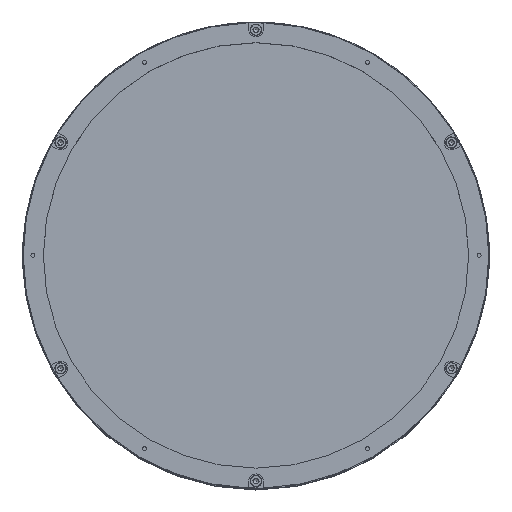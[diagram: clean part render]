
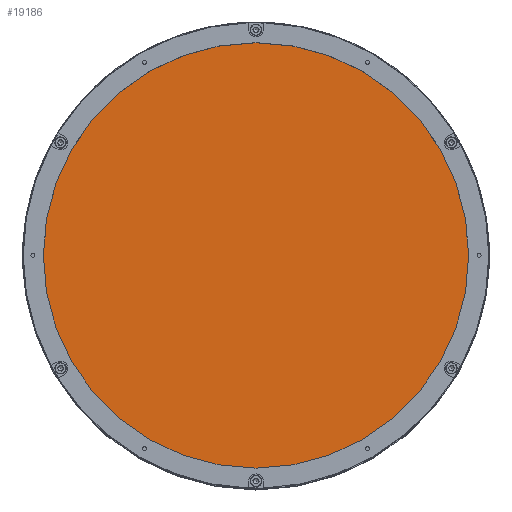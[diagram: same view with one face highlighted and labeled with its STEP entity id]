
A CAD part, top view. The second image highlights one B-rep face of the part: STEP entity #19186.
In plain terms, the highlighted planar face has unit normal (0, 0, 1).
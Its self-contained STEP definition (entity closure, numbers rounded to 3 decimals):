
#982 = EDGE_LOOP ( 'NONE', ( #13787 ) ) ;
#1657 = EDGE_CURVE ( 'NONE', #14975, #14975, #3616, .T. ) ;
#1909 = PLANE ( 'NONE',  #13755 ) ;
#2255 = AXIS2_PLACEMENT_3D ( 'NONE', #12695, #3534, #14220 ) ;
#3534 = DIRECTION ( 'NONE',  ( 0., 0., 1. ) ) ;
#3616 = CIRCLE ( 'NONE', #2255, 82. ) ;
#6451 = CARTESIAN_POINT ( 'NONE',  ( 0., 0., 353.802 ) ) ;
#9570 = DIRECTION ( 'NONE',  ( 1., 0., 0. ) ) ;
#10462 = CARTESIAN_POINT ( 'NONE',  ( 0., -82., 353.802 ) ) ;
#12695 = CARTESIAN_POINT ( 'NONE',  ( 0., 0., 353.802 ) ) ;
#13755 = AXIS2_PLACEMENT_3D ( 'NONE', #6451, #18696, #9570 ) ;
#13787 = ORIENTED_EDGE ( 'NONE', *, *, #1657, .T. ) ;
#14220 = DIRECTION ( 'NONE',  ( 0., -1., 0. ) ) ;
#14975 = VERTEX_POINT ( 'NONE', #10462 ) ;
#18696 = DIRECTION ( 'NONE',  ( 0., 0., 1. ) ) ;
#19081 = FACE_OUTER_BOUND ( 'NONE', #982, .T. ) ;
#19186 = ADVANCED_FACE ( 'NONE', ( #19081 ), #1909, .T. ) ;
